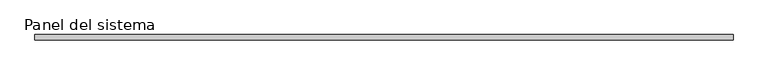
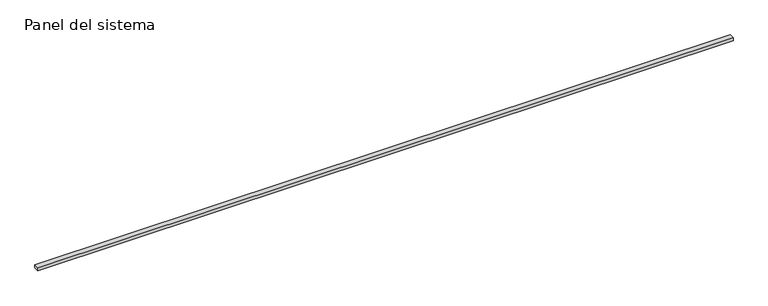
"""IFC4 building model written with IfcOpenShell, lengths in millimetres: plate geometry, Panel del sistema : HIANSA - CHAPA PERFILADA CUBIERTA - MT32F Hor."""

from ifc_helpers import new_model, si_unit, origin, origin_with_axes, place, context, project, spatial, polyline, outline, extrude, source, transform, mapped, element, save


def panel_del_sistema_d2294818(model_context):
    return source(origin(), model_context, "Body", "SweptSolid", [
        extrude(outline(polyline([(2128.0, -32.0), (-2128.0, -32.0), (-2128.0, 0.0), (2128.0, 0.0), (2128.0, -32.0)])), origin_with_axes(), (0.0, 0.0, 1.0), 20.0),
    ])


if __name__ == "__main__":
    model = new_model("IFC4")
    model_context = context("Model", 3, world=origin())
    ifc_project = project(units=[si_unit("LENGTHUNIT", "METRE", prefix="MILLI")], contexts=[model_context])
    site = spatial("IfcSite", under=ifc_project)
    building = spatial("IfcBuilding", under=site)
    placement = place(None, origin())
    panel_del_sistema_shape = panel_del_sistema_d2294818(model_context)
    element("IfcPlate", 1, ObjectType="Panel del sistema : HIANSA - CHAPA PERFILADA CUBIERTA - MT32F Hor", at=placement, inside=building, context=model_context, shape_type="MappedRepresentation", body=[
        mapped(panel_del_sistema_shape, transform((0.0, 0.0, 0.0), x_axis=(1.0, 0.0, 0.0), y_axis=(0.0, 1.0, 0.0), z_axis=(0.0, 0.0, 1.0))),
    ])
    save(model, "model.ifc")
